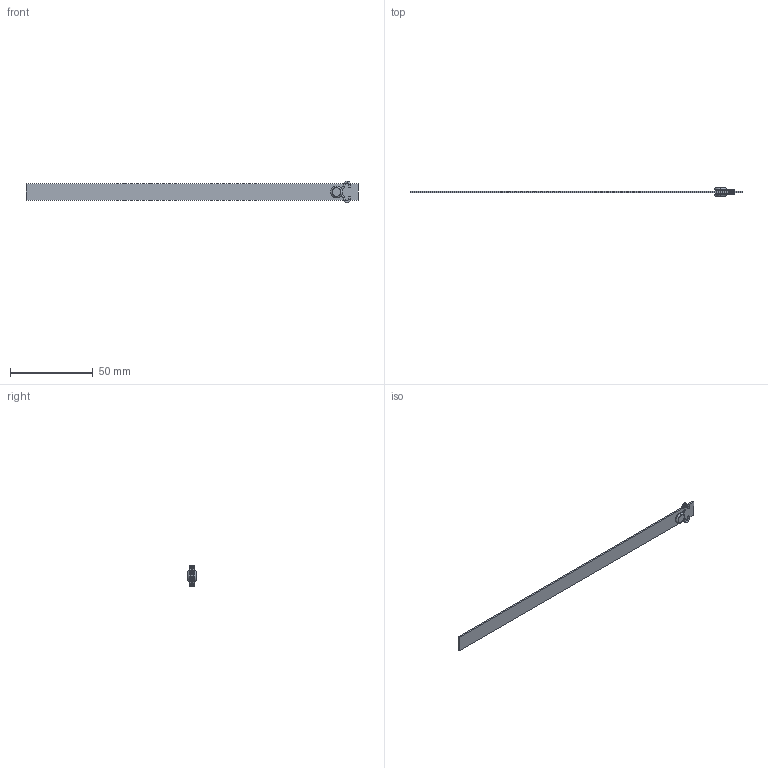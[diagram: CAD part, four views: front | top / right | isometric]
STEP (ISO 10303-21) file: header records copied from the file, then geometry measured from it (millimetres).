
FILE_DESCRIPTION (( 'STEP AP203' ), '1' );
FILE_NAME ('RLA-10x200.STEP', '2015-12-10T15:56:03', ( 'Balzi' ), ( '' ), 'SwSTEP 2.0', 'SolidWorks 2015', '' );
FILE_SCHEMA (( 'CONFIG_CONTROL_DESIGN' ));
Length unit declared in the file: millimetre
Products named in the file (1): RLA-10x200
Bounding box: 200 x 5 x 12.99 mm (x, y, z)
Volume: 2069.3 mm3; surface area: 4717.3 mm2
Topology: 5 solids, 5 shells, 84 faces, 162 edges, 88 vertices
Faces by surface type: torus 40, cylinder 30, plane 14
Entity records: 2199 total; most frequent: DIRECTION 452, CARTESIAN_POINT 335, ORIENTED_EDGE 324, AXIS2_PLACEMENT_3D 205, EDGE_CURVE 162, CIRCLE 120, VERTEX_POINT 88, EDGE_LOOP 86
